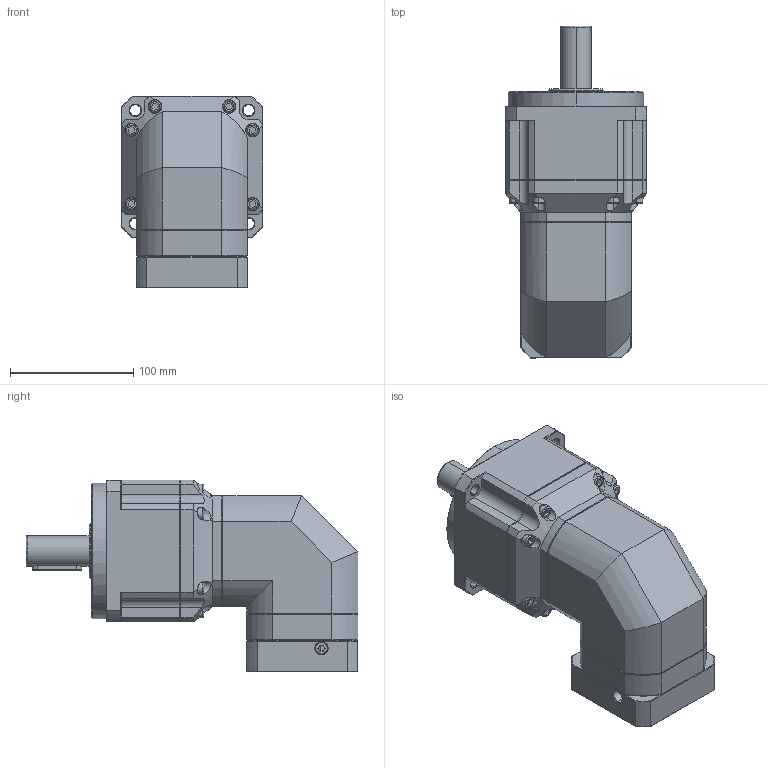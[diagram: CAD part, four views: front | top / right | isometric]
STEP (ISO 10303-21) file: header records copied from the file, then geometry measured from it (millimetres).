
FILE_DESCRIPTION (( 'STEP AP214' ), '1' );
FILE_NAME ('ZPBR115-D25-L2-P1-14-50-70-M5.step', '2024-06-29T07:59:43', ( 'Windows 蚚誧' ), ( 'Organization' ), 'SwSTEP 2.0', 'SolidWorks 2016', '' );
FILE_SCHEMA (( 'AUTOMOTIVE_DESIGN' ));
Length unit declared in the file: millimetre
Products named in the file (1): ZPBR115-D25-L2-P1-14-50-70-M5
Bounding box: 115 x 269 x 155.5 mm (x, y, z)
Surface area: 150772.1 mm2 (no closed solid volume)
Topology: 0 solids, 3 shells, 1783 faces, 4786 edges, 3104 vertices
Faces by surface type: plane 1039, bspline 397, cylinder 191, cone 156
Full cylindrical faces by diameter (mm): 10.2 x1
Entity records: 98062 total; most frequent: CARTESIAN_POINT 49871, ORIENTED_EDGE 9544, DIRECTION 7048, EDGE_CURVE 4784, LINE 3208, VECTOR 3208, VERTEX_POINT 3103, AXIS2_PLACEMENT_3D 1920
